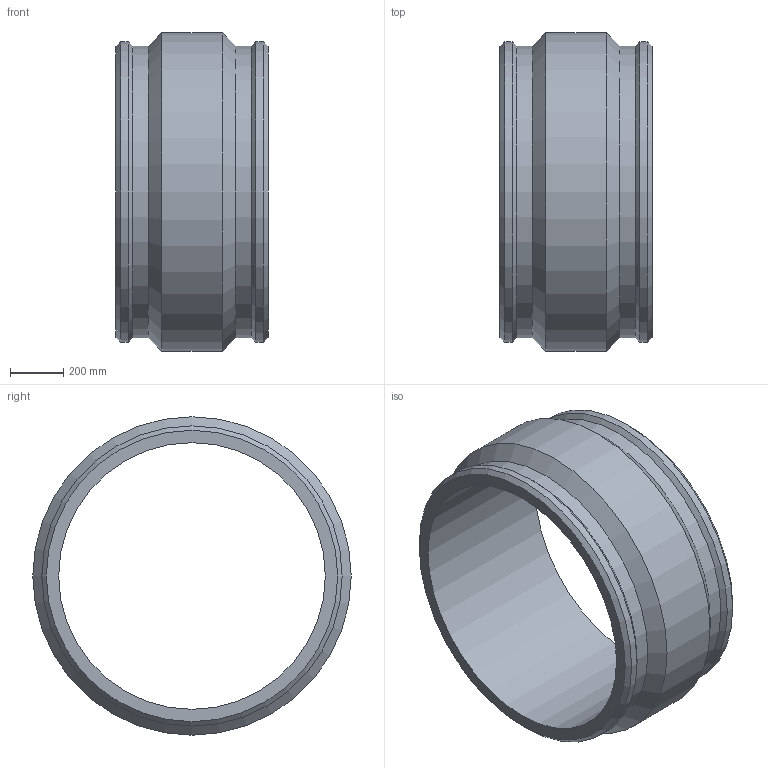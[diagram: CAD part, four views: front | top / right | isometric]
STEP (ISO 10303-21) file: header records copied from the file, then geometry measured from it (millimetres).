
FILE_DESCRIPTION(/* description */ ('PLASSON COUPLER 1000'),/* implementation_level */ '2;1');
FILE_NAME(/* name */ 'C:\Users\Lenora\Dropbox\99-16-3568-Processing\ElectroFusion Fittings\490103\490103\4901031000.ipt.stp',/* time_stamp */ '2020-12-07T20:47:10+03:00',/* author */ ('KIM'),/* organization */ (''),/* preprocessor_version */ 'ST-DEVELOPER v17.2',/* originating_system */ 'Autodesk Inventor 2019',/* authorisation */ '');
FILE_SCHEMA (('AUTOMOTIVE_DESIGN { 1 0 10303 214 3 1 1 }'));
Length unit declared in the file: millimetre
Products named in the file (1): 4901031000
Bounding box: 570 x 1194 x 1194 mm (x, y, z)
Volume: 142587409.7 mm3; surface area: 4398595.4 mm2
Topology: 1 solids, 1 shells, 28 faces, 62 edges, 42 vertices
Faces by surface type: cylinder 14, plane 8, cone 6
Full cylindrical faces by diameter (mm): 4 x2, 10 x2, 1000 x1, 1092.22 x2, 1126 x2, 1194 x1
Entity records: 911 total; most frequent: CARTESIAN_POINT 203, DIRECTION 158, ORIENTED_EDGE 124, AXIS2_PLACEMENT_3D 71, EDGE_CURVE 62, CIRCLE 42, VERTEX_POINT 42, EDGE_LOOP 36
